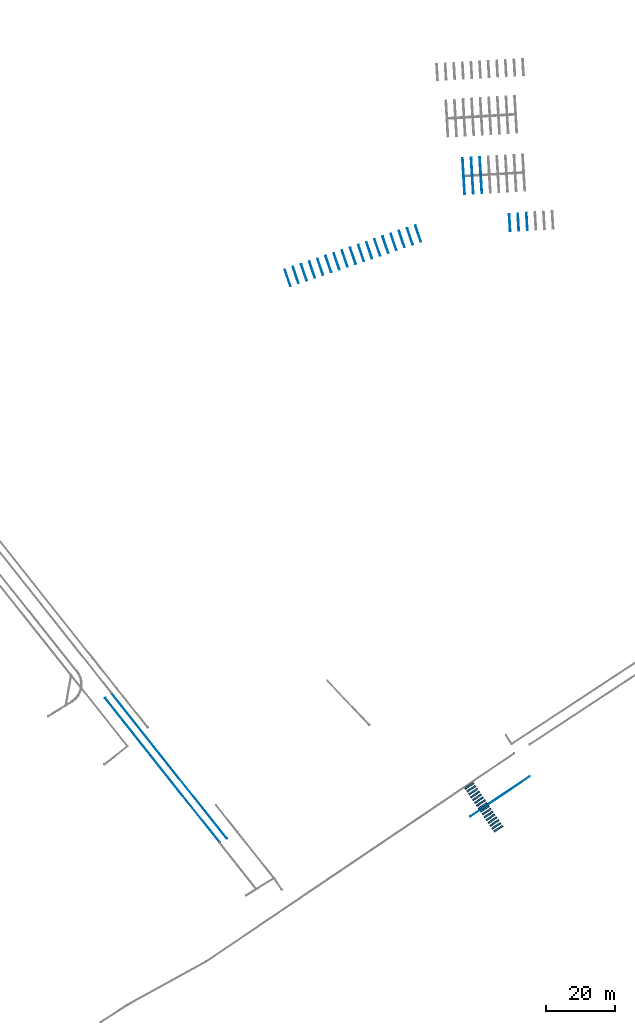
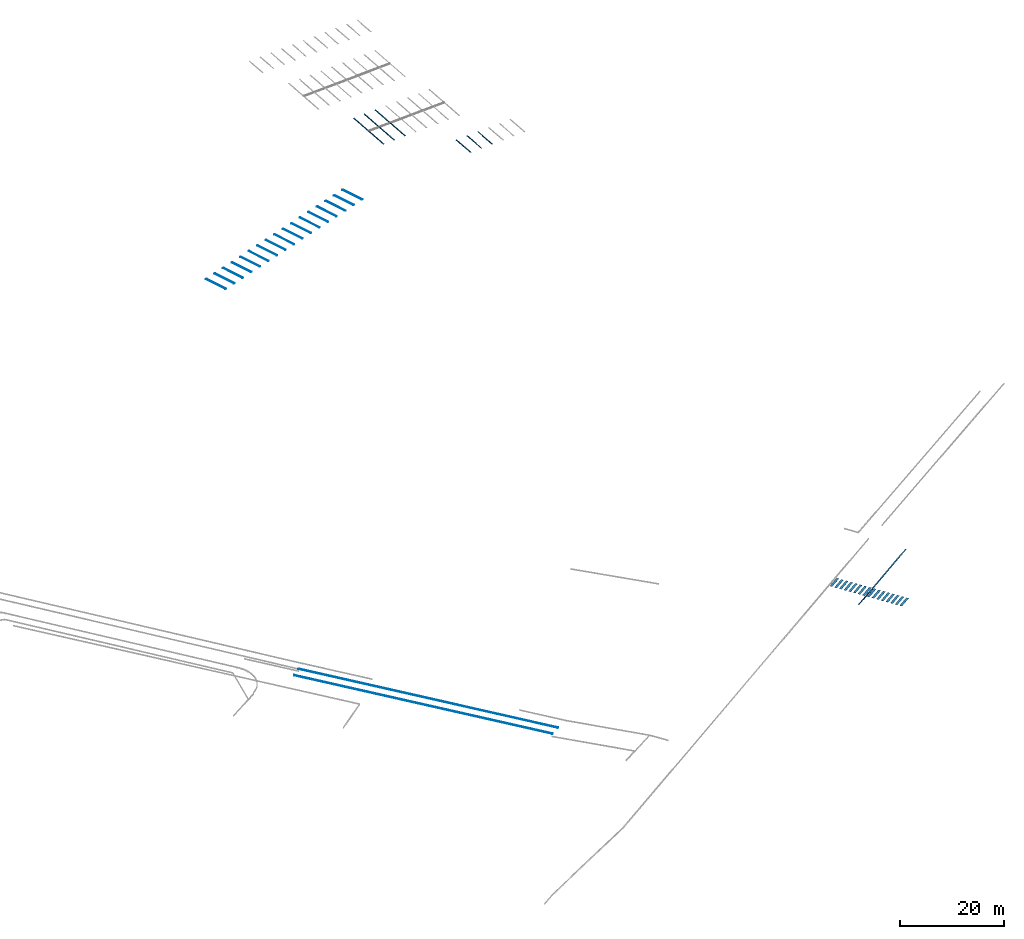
# One storey, part 11 of 24: 42 walls.
"""IFC2X3 building model written with IfcOpenShell, lengths in millimetres."""

from ifc_helpers import new_model, entity, si_unit, converted_unit, derived_unit, direction, frame, frame_2d, origin, origin_2d_with_axis, place, context, subcontext, project, spatial, rectangle, extrude, material, type_object, element, save


model = new_model("IFC2X3")

# Units and contexts
model_context = context("Model", 3, precision=0.01, world=origin(), true_north=direction((6.123031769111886e-17, 1.0)))
body_context = subcontext(model_context, "Body", "Model", "MODEL_VIEW")
ifc_project = project(units=[si_unit("LENGTHUNIT", "METRE", prefix="MILLI"), si_unit("AREAUNIT", "SQUARE_METRE"), si_unit("VOLUMEUNIT", "CUBIC_METRE"), converted_unit("PLANEANGLEUNIT", "DEGREE", entity("IfcRatioMeasure", 0.017453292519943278), si_unit("PLANEANGLEUNIT", "RADIAN"), dimensions=[0, 0, 0, 0, 0, 0, 0]), si_unit("MASSUNIT", "GRAM", prefix="KILO"), derived_unit("MASSDENSITYUNIT", [(si_unit("MASSUNIT", "GRAM", prefix="KILO"), 1), (si_unit("LENGTHUNIT", "METRE"), -3)]), derived_unit("MOMENTOFINERTIAUNIT", [(si_unit("LENGTHUNIT", "METRE"), 4)]), si_unit("TIMEUNIT", "SECOND"), si_unit("FREQUENCYUNIT", "HERTZ"), si_unit("THERMODYNAMICTEMPERATUREUNIT", "DEGREE_CELSIUS"), derived_unit("THERMALTRANSMITTANCEUNIT", [(si_unit("MASSUNIT", "GRAM", prefix="KILO"), 1), (si_unit("THERMODYNAMICTEMPERATUREUNIT", "KELVIN"), -1), (si_unit("TIMEUNIT", "SECOND"), -3)]), derived_unit("THERMALCONDUCTANCEUNIT", [(si_unit("MASSUNIT", "GRAM", prefix="KILO"), 1), (si_unit("LENGTHUNIT", "METRE"), 1), (si_unit("THERMODYNAMICTEMPERATUREUNIT", "KELVIN"), -1), (si_unit("TIMEUNIT", "SECOND"), -3)]), derived_unit("VOLUMETRICFLOWRATEUNIT", [(si_unit("LENGTHUNIT", "METRE"), 3), (si_unit("TIMEUNIT", "SECOND"), -1)]), derived_unit("MASSFLOWRATEUNIT", [(si_unit("MASSUNIT", "GRAM", prefix="KILO"), 1), (si_unit("TIMEUNIT", "SECOND"), -1)]), derived_unit("ROTATIONALFREQUENCYUNIT", [(si_unit("TIMEUNIT", "SECOND"), -1)]), si_unit("ELECTRICCURRENTUNIT", "AMPERE"), si_unit("ELECTRICVOLTAGEUNIT", "VOLT"), si_unit("POWERUNIT", "WATT"), converted_unit("FORCEUNIT", "KIP", entity("IfcRatioMeasure", 2.088543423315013e-05), si_unit("FORCEUNIT", "NEWTON"), dimensions=[1, 1, -2, 0, 0, 0, 0]), si_unit("ILLUMINANCEUNIT", "LUX"), si_unit("LUMINOUSFLUXUNIT", "LUMEN"), si_unit("LUMINOUSINTENSITYUNIT", "CANDELA"), derived_unit("USERDEFINED", [(si_unit("MASSUNIT", "GRAM", prefix="KILO"), -1), (si_unit("LENGTHUNIT", "METRE"), -2), (si_unit("TIMEUNIT", "SECOND"), 3), (si_unit("LUMINOUSFLUXUNIT", "LUMEN"), 1)]), derived_unit("USERDEFINED", [(si_unit("MASSUNIT", "GRAM", prefix="KILO"), 1), (si_unit("LENGTHUNIT", "METRE"), 3), (si_unit("TIMEUNIT", "SECOND"), -3), (si_unit("ELECTRICCURRENTUNIT", "AMPERE"), -2)]), derived_unit("USERDEFINED", [(si_unit("LENGTHUNIT", "METRE"), 2), (si_unit("TIMEUNIT", "SECOND"), -2)]), derived_unit("SOUNDPOWERUNIT", [(si_unit("MASSUNIT", "GRAM", prefix="KILO"), 1), (si_unit("LENGTHUNIT", "METRE"), 2), (si_unit("TIMEUNIT", "SECOND"), -3)]), derived_unit("SOUNDPRESSUREUNIT", [(si_unit("MASSUNIT", "GRAM", prefix="KILO"), 1), (si_unit("LENGTHUNIT", "METRE"), -1), (si_unit("TIMEUNIT", "SECOND"), -2)]), derived_unit("LINEARVELOCITYUNIT", [(si_unit("LENGTHUNIT", "METRE"), 1), (si_unit("TIMEUNIT", "SECOND"), -1)]), si_unit("PRESSUREUNIT", "PASCAL"), derived_unit("USERDEFINED", [(si_unit("LENGTHUNIT", "METRE"), -2), (si_unit("MASSUNIT", "GRAM", prefix="KILO"), 1), (si_unit("TIMEUNIT", "SECOND"), -2)]), derived_unit("LINEARFORCEUNIT", [(si_unit("MASSUNIT", "GRAM", prefix="KILO"), 1), (si_unit("LENGTHUNIT", "METRE"), 1), (si_unit("TIMEUNIT", "SECOND"), -2), (si_unit("LENGTHUNIT", "METRE"), -1)]), derived_unit("PLANARFORCEUNIT", [(si_unit("MASSUNIT", "GRAM", prefix="KILO"), 1), (si_unit("LENGTHUNIT", "METRE"), 1), (si_unit("TIMEUNIT", "SECOND"), -2), (si_unit("LENGTHUNIT", "METRE"), -2)]), derived_unit("SPECIFICHEATCAPACITYUNIT", [(si_unit("LENGTHUNIT", "METRE"), 2), (si_unit("TIMEUNIT", "SECOND"), -2), (si_unit("THERMODYNAMICTEMPERATUREUNIT", "KELVIN"), -1)]), derived_unit("VAPORPERMEABILITYUNIT", [(si_unit("TIMEUNIT", "SECOND"), 1), (si_unit("LENGTHUNIT", "METRE"), -1)]), derived_unit("DYNAMICVISCOSITYUNIT", [(si_unit("MASSUNIT", "GRAM", prefix="KILO"), 1), (si_unit("LENGTHUNIT", "METRE"), -1), (si_unit("TIMEUNIT", "SECOND"), -1)]), derived_unit("THERMALEXPANSIONCOEFFICIENTUNIT", [(si_unit("THERMODYNAMICTEMPERATUREUNIT", "KELVIN"), -1)])], contexts=[model_context])

# Site, building, storey
site_placement = place(None, frame((0.0, 0.0, 0.0), z_axis=(0.0, 0.0, 1.0), x_axis=(0.8191520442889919, 0.5735764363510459, 0.0)))
site = spatial("IfcSite", under=ifc_project, at=site_placement, Name="Default", CompositionType="ELEMENT")
building_placement = place(site_placement, origin())
building = spatial("IfcBuilding", under=site, at=building_placement, CompositionType="ELEMENT")
storey_placement = place(building_placement, frame((0.0, 0.0, -1150.0)))
storey = spatial("IfcBuildingStorey", under=building, at=storey_placement, Name="6.EG KH -1.15", CompositionType="ELEMENT", Elevation=-1150.0000000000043)

# Walls
ifc_material = material(Name="road_markirovka")
wall_type_1 = type_object("IfcWallType", Name="81", PredefinedType="NOTDEFINED", material=ifc_material)
wall_1_placement = place(storey_placement, frame((-157422.94403186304, -124666.65552484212, 650.0), z_axis=(0.0, 0.0, 1.0), x_axis=(0.0, 1.0, 0.0)))
element("IfcWall", 1, at=wall_1_placement, inside=storey, type_object=wall_type_1, material=ifc_material, Name="81 203401:81 203401", ObjectType="81 203401:81 203401", context=body_context, shape_type="SweptSolid", body=[
    extrude(rectangle(XDim=199.99999999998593, YDim=53887.487042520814, at=frame_2d((9.07363073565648e-12, 9.094947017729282e-12), x_axis=(1.0, 0.0))), frame((26901.017693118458, -1719.6915180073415, 0.0), z_axis=(0.0, 0.0, 1.0), x_axis=(0.06012053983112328, -0.9981911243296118, 0.0)), (0.0, 0.0, 1.0), 9.999999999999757),
])
wall_type_2 = type_object("IfcWallType", Name="81", PredefinedType="NOTDEFINED", material=ifc_material)
wall_2_placement = place(storey_placement, frame((-159718.7836177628, -124506.49862372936, 650.0), z_axis=(0.0, 0.0, 1.0), x_axis=(0.0, 1.0, 0.0)))
element("IfcWall", 2, at=wall_2_placement, inside=storey, type_object=wall_type_2, material=ifc_material, Name="81 203406:81 203406", ObjectType="81 203406:81 203406", context=body_context, shape_type="SweptSolid", body=[
    extrude(rectangle(XDim=200.00000000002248, YDim=53588.51209031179, at=frame_2d((1.7998047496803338e-11, 1.0913936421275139e-11), x_axis=(1.0, 0.0))), frame((26751.80062127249, -1710.7042502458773, 0.0), z_axis=(0.0, 0.0, 1.0), x_axis=(0.060120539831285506, -0.9981911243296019, 0.0)), (0.0, 0.0, 1.0), 9.999999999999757),
])
wall_type_3 = type_object("IfcWallType", Name="04", PredefinedType="NOTDEFINED", material=ifc_material)
wall_3_placement = place(storey_placement, frame((-8644.21071211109, -15088.85947063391, 350.0), z_axis=(0.0, 0.0, 1.0), x_axis=(0.0, 1.0, 0.0)))
element("IfcWall", 3, at=wall_3_placement, inside=storey, type_object=wall_type_3, material=ifc_material, Name="04 203686:04 203686", ObjectType="04 203686:04 203686", context=body_context, shape_type="SweptSolid", body=[
    extrude(rectangle(XDim=199.9999999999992, YDim=5000.0, at=frame_2d((-6.110667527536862e-13, 2.0463630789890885e-12), x_axis=(1.0, 0.0))), frame((2428.3863957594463, -794.4804455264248, 0.0), z_axis=(0.0, 0.0, 1.0), x_axis=(-0.2793850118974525, -0.9601791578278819, 0.0)), (0.0, 0.0, 1.0), 9.999999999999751),
])
wall_type_4 = type_object("IfcWallType", Name="04", PredefinedType="NOTDEFINED", material=ifc_material)
wall_4_placement = place(storey_placement, frame((-11044.658606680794, -14390.396940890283, 350.0), z_axis=(0.0, 0.0, 1.0), x_axis=(0.0, 1.0, 0.0)))
element("IfcWall", 4, at=wall_4_placement, inside=storey, type_object=wall_type_4, material=ifc_material, Name="04 203688:04 203688", ObjectType="04 203688:04 203688", context=body_context, shape_type="SweptSolid", body=[
    extrude(rectangle(XDim=199.9999999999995, YDim=5000.000000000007, at=frame_2d((1.1439738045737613e-12, -2.0463630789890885e-12), x_axis=(1.0, 0.0))), frame((2428.3863957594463, -794.4804455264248, 0.0), z_axis=(0.0, 0.0, 1.0), x_axis=(-0.27938501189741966, -0.9601791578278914, 0.0)), (0.0, 0.0, 1.0), 9.999999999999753),
])
wall_type_5 = type_object("IfcWallType", Name="04", PredefinedType="NOTDEFINED", material=ifc_material)
wall_5_placement = place(storey_placement, frame((-13445.106501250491, -13691.934411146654, 350.0), z_axis=(0.0, 0.0, 1.0), x_axis=(0.0, 1.0, 0.0)))
element("IfcWall", 5, at=wall_5_placement, inside=storey, type_object=wall_type_5, material=ifc_material, Name="04 203690:04 203690", ObjectType="04 203690:04 203690", context=body_context, shape_type="SweptSolid", body=[
    extrude(rectangle(XDim=199.99999999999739, YDim=5000.000000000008, at=frame_2d((1.9610979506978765e-12, -2.7284841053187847e-12), x_axis=(1.0, 0.0))), frame((2428.3863957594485, -794.4804455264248, 0.0), z_axis=(0.0, 0.0, 1.0), x_axis=(-0.27938501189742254, -0.9601791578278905, 0.0)), (0.0, 0.0, 1.0), 9.999999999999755),
])
wall_type_6 = type_object("IfcWallType", Name="04", PredefinedType="NOTDEFINED", material=ifc_material)
wall_6_placement = place(storey_placement, frame((-15845.554395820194, -12993.471881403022, 350.0), z_axis=(0.0, 0.0, 1.0), x_axis=(0.0, 1.0, 0.0)))
element("IfcWall", 6, at=wall_6_placement, inside=storey, type_object=wall_type_6, material=ifc_material, Name="04 203693:04 203693", ObjectType="04 203693:04 203693", context=body_context, shape_type="SweptSolid", body=[
    extrude(rectangle(XDim=199.99999999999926, YDim=5000.000000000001, at=frame_2d((2.0250467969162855e-12, 6.821210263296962e-13), x_axis=(1.0, 0.0))), frame((2428.3863957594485, -794.4804455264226, 0.0), z_axis=(0.0, 0.0, 1.0), x_axis=(-0.2793850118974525, -0.9601791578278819, 0.0)), (0.0, 0.0, 1.0), 9.999999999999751),
])
wall_type_7 = type_object("IfcWallType", Name="04", PredefinedType="NOTDEFINED", material=ifc_material)
wall_7_placement = place(storey_placement, frame((-20646.45018495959, -11596.54682191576, 350.0), z_axis=(0.0, 0.0, 1.0), x_axis=(0.0, 1.0, 0.0)))
element("IfcWall", 7, at=wall_7_placement, inside=storey, type_object=wall_type_7, material=ifc_material, Name="04 203695:04 203695", ObjectType="04 203695:04 203695", context=body_context, shape_type="SweptSolid", body=[
    extrude(rectangle(XDim=199.99999999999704, YDim=5000.0, at=frame_2d((2.1032064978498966e-12, 9.094947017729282e-13), x_axis=(1.0, 0.0))), frame((2428.3863957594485, -794.4804455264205, 0.0), z_axis=(0.0, 0.0, 1.0), x_axis=(-0.2793850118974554, -0.960179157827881, 0.0)), (0.0, 0.0, 1.0), 9.999999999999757),
])
wall_type_8 = type_object("IfcWallType", Name="04", PredefinedType="NOTDEFINED", material=ifc_material)
wall_8_placement = place(storey_placement, frame((-18246.002290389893, -12295.009351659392, 350.0), z_axis=(0.0, 0.0, 1.0), x_axis=(0.0, 1.0, 0.0)))
element("IfcWall", 8, at=wall_8_placement, inside=storey, type_object=wall_type_8, material=ifc_material, Name="04 203696:04 203696", ObjectType="04 203696:04 203696", context=body_context, shape_type="SweptSolid", body=[
    extrude(rectangle(XDim=199.99999999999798, YDim=5000.000000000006, at=frame_2d((-1.0160761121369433e-12, -2.2737367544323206e-13), x_axis=(1.0, 0.0))), frame((2428.3863957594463, -794.4804455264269, 0.0), z_axis=(0.0, 0.0, 1.0), x_axis=(-0.2793850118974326, -0.9601791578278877, 0.0)), (0.0, 0.0, 1.0), 9.999999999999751),
])
wall_type_9 = type_object("IfcWallType", Name="04", PredefinedType="NOTDEFINED", material=ifc_material)
wall_9_placement = place(storey_placement, frame((-23046.8980795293, -10898.08429217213, 350.0), z_axis=(0.0, 0.0, 1.0), x_axis=(0.0, 1.0, 0.0)))
element("IfcWall", 9, at=wall_9_placement, inside=storey, type_object=wall_type_9, material=ifc_material, Name="04 203697:04 203697", ObjectType="04 203697:04 203697", context=body_context, shape_type="SweptSolid", body=[
    extrude(rectangle(XDim=200.00000000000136, YDim=5000.000000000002, at=frame_2d((-1.3500311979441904e-13, 6.821210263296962e-13), x_axis=(1.0, 0.0))), frame((2428.3863957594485, -794.4804455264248, 0.0), z_axis=(0.0, 0.0, 1.0), x_axis=(-0.2793850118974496, -0.9601791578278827, 0.0)), (0.0, 0.0, 1.0), 9.999999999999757),
])
wall_type_10 = type_object("IfcWallType", Name="04", PredefinedType="NOTDEFINED", material=ifc_material)
wall_10_placement = place(storey_placement, frame((-27847.793868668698, -9501.159232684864, 350.0), z_axis=(0.0, 0.0, 1.0), x_axis=(0.0, 1.0, 0.0)))
element("IfcWall", 10, at=wall_10_placement, inside=storey, type_object=wall_type_10, material=ifc_material, Name="04 203701:04 203701", ObjectType="04 203701:04 203701", context=body_context, shape_type="SweptSolid", body=[
    extrude(rectangle(XDim=199.99999999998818, YDim=5000.000000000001, at=frame_2d((2.5721647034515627e-12, -9.094947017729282e-13), x_axis=(1.0, 0.0))), frame((2428.3863957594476, -794.4804455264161, 0.0), z_axis=(0.0, 0.0, 1.0), x_axis=(-0.27938501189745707, -0.9601791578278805, 0.0)), (0.0, 0.0, 1.0), 9.999999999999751),
])
wall_type_11 = type_object("IfcWallType", Name="04", PredefinedType="NOTDEFINED", material=ifc_material)
wall_11_placement = place(storey_placement, frame((-25447.345974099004, -10199.621762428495, 350.0), z_axis=(0.0, 0.0, 1.0), x_axis=(0.0, 1.0, 0.0)))
element("IfcWall", 11, at=wall_11_placement, inside=storey, type_object=wall_type_11, material=ifc_material, Name="04 203703:04 203703", ObjectType="04 203703:04 203703", context=body_context, shape_type="SweptSolid", body=[
    extrude(rectangle(XDim=200.00000000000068, YDim=4999.999999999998, at=origin_2d_with_axis()), frame((2428.3863957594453, -794.4804455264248, 0.0), z_axis=(0.0, 0.0, 1.0), x_axis=(-0.2793850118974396, -0.9601791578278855, 0.0)), (0.0, 0.0, 1.0), 9.999999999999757),
])
wall_type_12 = type_object("IfcWallType", Name="04", PredefinedType="NOTDEFINED", material=ifc_material)
wall_12_placement = place(storey_placement, frame((-30248.241763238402, -8802.696702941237, 350.0), z_axis=(0.0, 0.0, 1.0), x_axis=(0.0, 1.0, 0.0)))
element("IfcWall", 12, at=wall_12_placement, inside=storey, type_object=wall_type_12, material=ifc_material, Name="04 203705:04 203705", ObjectType="04 203705:04 203705", context=body_context, shape_type="SweptSolid", body=[
    extrude(rectangle(XDim=199.99999999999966, YDim=5000.000000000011, at=frame_2d((-3.858247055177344e-12, -2.5011104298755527e-12), x_axis=(1.0, 0.0))), frame((2428.3863957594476, -794.4804455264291, 0.0), z_axis=(0.0, 0.0, 1.0), x_axis=(-0.27938501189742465, -0.96017915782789, 0.0)), (0.0, 0.0, 1.0), 9.999999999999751),
])
wall_type_13 = type_object("IfcWallType", Name="04", PredefinedType="NOTDEFINED", material=ifc_material)
wall_13_placement = place(storey_placement, frame((-35049.1375523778, -7405.77164345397, 350.0), z_axis=(0.0, 0.0, 1.0), x_axis=(0.0, 1.0, 0.0)))
element("IfcWall", 13, at=wall_13_placement, inside=storey, type_object=wall_type_13, material=ifc_material, Name="04 203707:04 203707", ObjectType="04 203707:04 203707", context=body_context, shape_type="SweptSolid", body=[
    extrude(rectangle(XDim=199.9999999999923, YDim=5000.000000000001, at=frame_2d((4.334310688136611e-12, 6.821210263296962e-13), x_axis=(1.0, 0.0))), frame((2428.3863957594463, -794.4804455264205, 0.0), z_axis=(0.0, 0.0, 1.0), x_axis=(-0.27938501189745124, -0.9601791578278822, 0.0)), (0.0, 0.0, 1.0), 9.999999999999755),
])
wall_type_14 = type_object("IfcWallType", Name="04", PredefinedType="NOTDEFINED", material=ifc_material)
wall_14_placement = place(storey_placement, frame((-39850.033341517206, -6008.846583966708, 350.0), z_axis=(0.0, 0.0, 1.0), x_axis=(0.0, 1.0, 0.0)))
element("IfcWall", 14, at=wall_14_placement, inside=storey, type_object=wall_type_14, material=ifc_material, Name="04 203709:04 203709", ObjectType="04 203709:04 203709", context=body_context, shape_type="SweptSolid", body=[
    extrude(rectangle(XDim=199.9999999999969, YDim=4999.999999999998, at=frame_2d((2.3661073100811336e-12, -2.2737367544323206e-13), x_axis=(1.0, 0.0))), frame((2428.3863957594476, -794.4804455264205, 0.0), z_axis=(0.0, 0.0, 1.0), x_axis=(-0.2793850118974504, -0.9601791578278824, 0.0)), (0.0, 0.0, 1.0), 9.999999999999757),
])
wall_type_15 = type_object("IfcWallType", Name="04", PredefinedType="NOTDEFINED", material=ifc_material)
wall_15_placement = place(storey_placement, frame((-37449.58544694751, -6707.309113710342, 350.0), z_axis=(0.0, 0.0, 1.0), x_axis=(0.0, 1.0, 0.0)))
element("IfcWall", 15, at=wall_15_placement, inside=storey, type_object=wall_type_15, material=ifc_material, Name="04 203710:04 203710", ObjectType="04 203710:04 203710", context=body_context, shape_type="SweptSolid", body=[
    extrude(rectangle(XDim=200.00000000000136, YDim=5000.000000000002, at=frame_2d((-1.3500311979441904e-13, 6.821210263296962e-13), x_axis=(1.0, 0.0))), frame((2428.3863957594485, -794.4804455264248, 0.0), z_axis=(0.0, 0.0, 1.0), x_axis=(-0.2793850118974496, -0.9601791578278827, 0.0)), (0.0, 0.0, 1.0), 9.999999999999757),
])
wall_type_16 = type_object("IfcWallType", Name="04", PredefinedType="NOTDEFINED", material=ifc_material)
wall_16_placement = place(storey_placement, frame((-42250.48123608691, -5310.384054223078, 350.0), z_axis=(0.0, 0.0, 1.0), x_axis=(0.0, 1.0, 0.0)))
element("IfcWall", 16, at=wall_16_placement, inside=storey, type_object=wall_type_16, material=ifc_material, Name="04 203713:04 203713", ObjectType="04 203713:04 203713", context=body_context, shape_type="SweptSolid", body=[
    extrude(rectangle(XDim=199.99999999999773, YDim=4999.999999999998, at=frame_2d((4.192202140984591e-12, 1.3642420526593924e-12), x_axis=(1.0, 0.0))), frame((2428.386395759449, -794.4804455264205, 0.0), z_axis=(0.0, 0.0, 1.0), x_axis=(-0.27938501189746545, -0.9601791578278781, 0.0)), (0.0, 0.0, 1.0), 9.999999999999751),
])
wall_type_17 = type_object("IfcWallType", Name="04", PredefinedType="NOTDEFINED", material=ifc_material)
wall_17_placement = place(storey_placement, frame((-32648.6896578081, -8104.234173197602, 350.0), z_axis=(0.0, 0.0, 1.0), x_axis=(0.0, 1.0, 0.0)))
element("IfcWall", 17, at=wall_17_placement, inside=storey, type_object=wall_type_17, material=ifc_material, Name="04 203714:04 203714", ObjectType="04 203714:04 203714", context=body_context, shape_type="SweptSolid", body=[
    extrude(rectangle(XDim=200.00000000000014, YDim=5000.000000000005, at=frame_2d((-3.787192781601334e-12, -2.9558577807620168e-12), x_axis=(1.0, 0.0))), frame((2428.3863957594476, -794.4804455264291, 0.0), z_axis=(0.0, 0.0, 1.0), x_axis=(-0.2793850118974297, -0.9601791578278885, 0.0)), (0.0, 0.0, 1.0), 9.999999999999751),
])
wall_type_18 = type_object("IfcWallType", Name="04", PredefinedType="NOTDEFINED", material=ifc_material)
wall_18_placement = place(storey_placement, frame((-44650.929130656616, -4611.921524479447, 350.0), z_axis=(0.0, 0.0, 1.0), x_axis=(0.0, 1.0, 0.0)))
element("IfcWall", 18, at=wall_18_placement, inside=storey, type_object=wall_type_18, material=ifc_material, Name="04 203716:04 203716", ObjectType="04 203716:04 203716", context=body_context, shape_type="SweptSolid", body=[
    extrude(rectangle(XDim=199.9999999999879, YDim=5000.000000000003, at=frame_2d((1.3500311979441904e-13, -4.547473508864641e-13), x_axis=(1.0, 0.0))), frame((2428.3863957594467, -794.4804455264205, 0.0), z_axis=(0.0, 0.0, 1.0), x_axis=(-0.2793850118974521, -0.960179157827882, 0.0)), (0.0, 0.0, 1.0), 9.999999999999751),
])
wall_type_19 = type_object("IfcWallType", Name="04", PredefinedType="NOTDEFINED", material=ifc_material)
wall_19_placement = place(storey_placement, frame((-47051.37702522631, -3913.458994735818, 350.0), z_axis=(0.0, 0.0, 1.0), x_axis=(0.0, 1.0, 0.0)))
element("IfcWall", 19, at=wall_19_placement, inside=storey, type_object=wall_type_19, material=ifc_material, Name="04 203719:04 203719", ObjectType="04 203719:04 203719", context=body_context, shape_type="SweptSolid", body=[
    extrude(rectangle(XDim=199.9999999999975, YDim=5000.000000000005, at=frame_2d((4.192202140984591e-12, 6.821210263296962e-13), x_axis=(1.0, 0.0))), frame((2428.38639575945, -794.4804455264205, 0.0), z_axis=(0.0, 0.0, 1.0), x_axis=(-0.2793850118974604, -0.9601791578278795, 0.0)), (0.0, 0.0, 1.0), 9.999999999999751),
])
wall_type_20 = type_object("IfcWallType", Name="06", PredefinedType="NOTDEFINED", material=ifc_material)
wall_20_placement = place(storey_placement, frame((18639.367433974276, -30098.25840925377, 550.0), z_axis=(0.0, 0.0, 1.0), x_axis=(0.0, 1.0, 0.0)))
element("IfcWall", 20, at=wall_20_placement, inside=storey, type_object=wall_type_20, material=ifc_material, Name="06:06", ObjectType="06:06", context=body_context, shape_type="SweptSolid", body=[
    extrude(rectangle(XDim=200.00000000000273, YDim=4999.999999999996, at=frame_2d((1.0800249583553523e-12, -1.5916157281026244e-12), x_axis=(1.0, 0.0))), frame((2182.58050410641, -1393.6700948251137, 0.0), z_axis=(0.0, 0.0, 1.0), x_axis=(0.5233841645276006, 0.8520968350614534, 0.0)), (0.0, 0.0, 1.0), 9.999999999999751),
])
wall_type_21 = type_object("IfcWallType", Name="05", PredefinedType="NOTDEFINED", material=ifc_material)
wall_21_placement = place(storey_placement, frame((16509.125346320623, -28789.797997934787, 550.0), z_axis=(0.0, 0.0, 1.0), x_axis=(0.0, 1.0, 0.0)))
element("IfcWall", 21, at=wall_21_placement, inside=storey, type_object=wall_type_21, material=ifc_material, Name="05 203726:05 203726", ObjectType="05 203726:05 203726", context=body_context, shape_type="SweptSolid", body=[
    extrude(rectangle(XDim=199.99999999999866, YDim=4999.999999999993, at=origin_2d_with_axis()), frame((2182.58050410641, -1393.6700948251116, 0.0), z_axis=(0.0, 0.0, 1.0), x_axis=(0.5233841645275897, 0.85209683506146, 0.0)), (0.0, 0.0, 1.0), 9.999999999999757),
])
wall_type_22 = type_object("IfcWallType", Name="04", PredefinedType="NOTDEFINED", material=ifc_material)
wall_22_placement = place(storey_placement, frame((14378.883258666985, -27481.33758661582, 550.0), z_axis=(0.0, 0.0, 1.0), x_axis=(0.0, 1.0, 0.0)))
element("IfcWall", 22, at=wall_22_placement, inside=storey, type_object=wall_type_22, material=ifc_material, Name="04 203735:04 203735", ObjectType="04 203735:04 203735", context=body_context, shape_type="SweptSolid", body=[
    extrude(rectangle(XDim=200.00000000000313, YDim=4999.999999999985, at=frame_2d((-2.3021584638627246e-12, 3.637978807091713e-12), x_axis=(1.0, 0.0))), frame((2182.58050410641, -1393.6700948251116, 0.0), z_axis=(0.0, 0.0, 1.0), x_axis=(0.5233841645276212, 0.8520968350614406, 0.0)), (0.0, 0.0, 1.0), 9.999999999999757),
])
wall_type_23 = type_object("IfcWallType", Name="04", PredefinedType="NOTDEFINED", material=ifc_material)
wall_23_placement = place(storey_placement, frame((13962.114785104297, -13729.226867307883, 600.0), z_axis=(0.0, 0.0, 1.0), x_axis=(0.0, 1.0, 0.0)))
element("IfcWall", 23, at=wall_23_placement, inside=storey, type_object=wall_type_23, material=ifc_material, Name="04 203768:04 203768", ObjectType="04 203768:04 203768", context=body_context, shape_type="SweptSolid", body=[
    extrude(rectangle(XDim=199.9999999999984, YDim=10500.000000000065, at=frame_2d((1.0800249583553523e-12, 1.8189894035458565e-12), x_axis=(1.0, 0.0))), frame((4525.846800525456, -2832.976547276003, 0.0), z_axis=(0.0, 0.0, 1.0), x_axis=(0.5233841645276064, 0.8520968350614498, 0.0)), (0.0, 0.0, 1.0), 9.999999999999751),
])
wall_type_24 = type_object("IfcWallType", Name="04", PredefinedType="NOTDEFINED", material=ifc_material)
wall_24_placement = place(storey_placement, frame((11831.872697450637, -12420.766455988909, 600.0), z_axis=(0.0, 0.0, 1.0), x_axis=(0.0, 1.0, 0.0)))
element("IfcWall", 24, at=wall_24_placement, inside=storey, type_object=wall_type_24, material=ifc_material, Name="04 203770:04 203770", ObjectType="04 203770:04 203770", context=body_context, shape_type="SweptSolid", body=[
    extrude(rectangle(XDim=200.00000000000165, YDim=10500.00000000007, at=frame_2d((-1.7621459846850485e-12, -9.094947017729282e-13), x_axis=(1.0, 0.0))), frame((4525.8468005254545, -2832.976547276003, 0.0), z_axis=(0.0, 0.0, 1.0), x_axis=(0.5233841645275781, 0.852096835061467, 0.0)), (0.0, 0.0, 1.0), 9.999999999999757),
])
wall_type_25 = type_object("IfcWallType", Name="04", PredefinedType="NOTDEFINED", material=ifc_material)
wall_25_placement = place(storey_placement, frame((9701.630609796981, -11112.306044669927, 600.0), z_axis=(0.0, 0.0, 1.0), x_axis=(0.0, 1.0, 0.0)))
element("IfcWall", 25, at=wall_25_placement, inside=storey, type_object=wall_type_25, material=ifc_material, Name="04 203774:04 203774", ObjectType="04 203774:04 203774", context=body_context, shape_type="SweptSolid", body=[
    extrude(rectangle(XDim=200.00000000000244, YDim=10500.00000000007, at=frame_2d((6.750155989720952e-13, -1.3642420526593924e-12), x_axis=(1.0, 0.0))), frame((4525.8468005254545, -2832.9765472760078, 0.0), z_axis=(0.0, 0.0, 1.0), x_axis=(0.5233841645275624, 0.8520968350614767, 0.0)), (0.0, 0.0, 1.0), 9.999999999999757),
])
wall_type_26 = type_object("IfcWallType", Name="81", PredefinedType="NOTDEFINED", material=ifc_material)
wall_26_placement = place(storey_placement, frame((-92520.78067355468, -160408.69061844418, 1000.0)))
element("IfcWall", 26, at=wall_26_placement, inside=storey, type_object=wall_type_26, material=ifc_material, Name="81 206551:81 206551", ObjectType="81 206551:81 206551", context=body_context, shape_type="SweptSolid", body=[
    extrude(rectangle(XDim=200.00000000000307, YDim=20829.355492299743, at=frame_2d((1.5631940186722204e-13, -8.185452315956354e-12), x_axis=(1.0, 0.0))), frame((10414.88562389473, 275.2710558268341, 0.0), z_axis=(0.0, 0.0, 1.0), x_axis=(0.01683059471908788, 0.9998583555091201, 0.0)), (0.0, 0.0, 1.0), 9.99999999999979),
])
wall_type_27 = type_object("IfcWallType", Name="81", PredefinedType="NOTDEFINED", material=ifc_material)
wall_27_placement = place(storey_placement, frame((-89413.36802585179, -167800.76748082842, 1000.0)))
element("IfcWall", 27, at=wall_27_placement, inside=storey, type_object=wall_type_27, material=ifc_material, Name="81 207331:81 207331", ObjectType="81 207331:81 207331", context=body_context, shape_type="SweptSolid", body=[
    extrude(rectangle(XDim=499.99999999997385, YDim=3000.0000000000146, at=frame_2d((3.4646063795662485e-11, 5.684341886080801e-13), x_axis=(1.0, 0.0))), frame((1503.9951819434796, 275.21048095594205, 0.0), z_axis=(0.0, 0.0, 1.0), x_axis=(0.01683059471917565, 0.9998583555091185, 0.0)), (0.0, 0.0, 1.0), 9.99999999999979),
])
wall_type_28 = type_object("IfcWallType", Name="81", PredefinedType="NOTDEFINED", material=ifc_material)
wall_28_placement = place(storey_placement, frame((-89379.70683641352, -165801.05076981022, 1000.0)))
element("IfcWall", 28, at=wall_28_placement, inside=storey, type_object=wall_type_28, material=ifc_material, Name="81 207334:81 207334", ObjectType="81 207334:81 207334", context=body_context, shape_type="SweptSolid", body=[
    extrude(rectangle(XDim=500.0000000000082, YDim=2999.999999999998, at=origin_2d_with_axis()), frame((1503.9951819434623, 275.2104809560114, 0.0), z_axis=(0.0, 0.0, 1.0), x_axis=(0.016830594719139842, 0.9998583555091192, 0.0)), (0.0, 0.0, 1.0), 9.99999999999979),
])
wall_type_29 = type_object("IfcWallType", Name="81", PredefinedType="NOTDEFINED", material=ifc_material)
wall_29_placement = place(storey_placement, frame((-89396.53743113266, -166800.90912531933, 1000.0)))
element("IfcWall", 29, at=wall_29_placement, inside=storey, type_object=wall_type_29, material=ifc_material, Name="81 207336:81 207336", ObjectType="81 207336:81 207336", context=body_context, shape_type="SweptSolid", body=[
    extrude(rectangle(XDim=500.0000000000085, YDim=3000.0000000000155, at=frame_2d((1.7323031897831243e-11, 3.410605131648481e-13), x_axis=(1.0, 0.0))), frame((1503.9951819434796, 275.2104809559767, 0.0), z_axis=(0.0, 0.0, 1.0), x_axis=(0.016830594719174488, 0.9998583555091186, 0.0)), (0.0, 0.0, 1.0), 9.999999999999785),
])
wall_type_30 = type_object("IfcWallType", Name="81", PredefinedType="NOTDEFINED", material=ifc_material)
wall_30_placement = place(storey_placement, frame((-89362.87624169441, -164801.1924143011, 1000.0)))
element("IfcWall", 30, at=wall_30_placement, inside=storey, type_object=wall_type_30, material=ifc_material, Name="81 207338:81 207338", ObjectType="81 207338:81 207338", context=body_context, shape_type="SweptSolid", body=[
    extrude(rectangle(XDim=499.9999999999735, YDim=3000.0000000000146, at=frame_2d((1.716671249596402e-11, 8.981260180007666e-12), x_axis=(1.0, 0.0))), frame((1503.9951819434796, 275.2104809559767, 0.0), z_axis=(0.0, 0.0, 1.0), x_axis=(0.01683059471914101, 0.9998583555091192, 0.0)), (0.0, 0.0, 1.0), 9.999999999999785),
])
wall_type_31 = type_object("IfcWallType", Name="81", PredefinedType="NOTDEFINED", material=ifc_material)
wall_31_placement = place(storey_placement, frame((-89329.21505225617, -162801.47570328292, 1000.0)))
element("IfcWall", 31, at=wall_31_placement, inside=storey, type_object=wall_type_31, material=ifc_material, Name="81 207340:81 207340", ObjectType="81 207340:81 207340", context=body_context, shape_type="SweptSolid", body=[
    extrude(rectangle(XDim=499.99999999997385, YDim=3000.000000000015, at=frame_2d((1.7323031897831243e-11, 2.2737367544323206e-13), x_axis=(1.0, 0.0))), frame((1503.9951819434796, 275.2104809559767, 0.0), z_axis=(0.0, 0.0, 1.0), x_axis=(0.01683059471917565, 0.9998583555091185, 0.0)), (0.0, 0.0, 1.0), 9.99999999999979),
])
wall_type_32 = type_object("IfcWallType", Name="81", PredefinedType="NOTDEFINED", material=ifc_material)
wall_32_placement = place(storey_placement, frame((-89346.04564697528, -163801.334058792, 1000.0)))
element("IfcWall", 32, at=wall_32_placement, inside=storey, type_object=wall_type_32, material=ifc_material, Name="81 207342:81 207342", ObjectType="81 207342:81 207342", context=body_context, shape_type="SweptSolid", body=[
    extrude(rectangle(XDim=499.9999999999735, YDim=3000.000000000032, at=frame_2d((3.480238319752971e-11, -7.958078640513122e-12), x_axis=(1.0, 0.0))), frame((1503.9951819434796, 275.21048095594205, 0.0), z_axis=(0.0, 0.0, 1.0), x_axis=(0.01683059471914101, 0.9998583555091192, 0.0)), (0.0, 0.0, 1.0), 9.999999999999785),
])
wall_type_33 = type_object("IfcWallType", Name="81", PredefinedType="NOTDEFINED", material=ifc_material)
wall_33_placement = place(storey_placement, frame((-89312.38445753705, -161801.6173477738, 1000.0)))
element("IfcWall", 33, at=wall_33_placement, inside=storey, type_object=wall_type_33, material=ifc_material, Name="81 207345:81 207345", ObjectType="81 207345:81 207345", context=body_context, shape_type="SweptSolid", body=[
    extrude(rectangle(XDim=500.00000000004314, YDim=3000.000000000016, at=frame_2d((-1.7323031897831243e-11, -4.547473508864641e-13), x_axis=(1.0, 0.0))), frame((1503.9951819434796, 275.2104809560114, 0.0), z_axis=(0.0, 0.0, 1.0), x_axis=(0.016830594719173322, 0.9998583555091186, 0.0)), (0.0, 0.0, 1.0), 9.99999999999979),
])
wall_type_34 = type_object("IfcWallType", Name="81", PredefinedType="NOTDEFINED", material=ifc_material)
wall_34_placement = place(storey_placement, frame((-89295.5538628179, -160801.7589922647, 1000.0)))
element("IfcWall", 34, at=wall_34_placement, inside=storey, type_object=wall_type_34, material=ifc_material, Name="81 207346:81 207346", ObjectType="81 207346:81 207346", context=body_context, shape_type="SweptSolid", body=[
    extrude(rectangle(XDim=499.9999999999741, YDim=2999.999999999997, at=frame_2d((1.7323031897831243e-11, 3.410605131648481e-13), x_axis=(1.0, 0.0))), frame((1503.9951819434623, 275.2104809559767, 0.0), z_axis=(0.0, 0.0, 1.0), x_axis=(0.016830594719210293, 0.999858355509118, 0.0)), (0.0, 0.0, 1.0), 9.99999999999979),
])
wall_type_35 = type_object("IfcWallType", Name="81", PredefinedType="NOTDEFINED", material=ifc_material)
wall_35_placement = place(storey_placement, frame((-89278.72326809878, -159801.90063675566, 1000.0)))
element("IfcWall", 35, at=wall_35_placement, inside=storey, type_object=wall_type_35, material=ifc_material, Name="81 207347:81 207347", ObjectType="81 207347:81 207347", context=body_context, shape_type="SweptSolid", body=[
    extrude(rectangle(XDim=499.9999999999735, YDim=3000.0000000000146, at=frame_2d((1.7479351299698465e-11, -8.412825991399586e-12), x_axis=(1.0, 0.0))), frame((1503.9951819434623, 275.2104809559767, 0.0), z_axis=(0.0, 0.0, 1.0), x_axis=(0.01683059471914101, 0.9998583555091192, 0.0)), (0.0, 0.0, 1.0), 9.999999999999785),
])
wall_type_36 = type_object("IfcWallType", Name="81", PredefinedType="NOTDEFINED", material=ifc_material)
wall_36_placement = place(storey_placement, frame((-89228.23148394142, -156802.3255702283, 1000.0)))
element("IfcWall", 36, at=wall_36_placement, inside=storey, type_object=wall_type_36, material=ifc_material, Name="81 207350:81 207350", ObjectType="81 207350:81 207350", context=body_context, shape_type="SweptSolid", body=[
    extrude(rectangle(XDim=500.0000000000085, YDim=3000.0000000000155, at=origin_2d_with_axis()), frame((1503.9951819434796, 275.2104809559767, 0.0), z_axis=(0.0, 0.0, 1.0), x_axis=(0.016830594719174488, 0.9998583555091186, 0.0)), (0.0, 0.0, 1.0), 9.999999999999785),
])
wall_type_37 = type_object("IfcWallType", Name="81", PredefinedType="NOTDEFINED", material=ifc_material)
wall_37_placement = place(storey_placement, frame((-89261.89267337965, -158802.0422812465, 1000.0)))
element("IfcWall", 37, at=wall_37_placement, inside=storey, type_object=wall_type_37, material=ifc_material, Name="81 207351:81 207351", ObjectType="81 207351:81 207351", context=body_context, shape_type="SweptSolid", body=[
    extrude(rectangle(XDim=499.9999999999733, YDim=3000.000000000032, at=frame_2d((1.7323031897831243e-11, 4.547473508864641e-13), x_axis=(1.0, 0.0))), frame((1503.9951819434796, 275.2104809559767, 0.0), z_axis=(0.0, 0.0, 1.0), x_axis=(0.01683059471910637, 0.9998583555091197, 0.0)), (0.0, 0.0, 1.0), 9.99999999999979),
])
wall_type_38 = type_object("IfcWallType", Name="81", PredefinedType="NOTDEFINED", material=ifc_material)
wall_38_placement = place(storey_placement, frame((-89245.06207866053, -157802.18392573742, 1000.0)))
element("IfcWall", 38, at=wall_38_placement, inside=storey, type_object=wall_type_38, material=ifc_material, Name="81 207352:81 207352", ObjectType="81 207352:81 207352", context=body_context, shape_type="SweptSolid", body=[
    extrude(rectangle(XDim=500.0000000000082, YDim=3000.0000000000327, at=frame_2d((-1.7195134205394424e-11, -9.094947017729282e-12), x_axis=(1.0, 0.0))), frame((1503.9951819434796, 275.2104809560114, 0.0), z_axis=(0.0, 0.0, 1.0), x_axis=(0.016830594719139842, 0.9998583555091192, 0.0)), (0.0, 0.0, 1.0), 9.99999999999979),
])
wall_type_39 = type_object("IfcWallType", Name="81", PredefinedType="NOTDEFINED", material=ifc_material)
wall_39_placement = place(storey_placement, frame((-89211.40088922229, -155802.46721471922, 1000.0)))
element("IfcWall", 39, at=wall_39_placement, inside=storey, type_object=wall_type_39, material=ifc_material, Name="81 207356:81 207356", ObjectType="81 207356:81 207356", context=body_context, shape_type="SweptSolid", body=[
    extrude(rectangle(XDim=500.0000000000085, YDim=3000.0000000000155, at=frame_2d((-8.668621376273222e-12, -1.1368683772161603e-13), x_axis=(1.0, 0.0))), frame((1503.9951819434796, 275.2104809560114, 0.0), z_axis=(0.0, 0.0, 1.0), x_axis=(0.016830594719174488, 0.9998583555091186, 0.0)), (0.0, 0.0, 1.0), 9.999999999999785),
])
wall_type_40 = type_object("IfcWallType", Name="81", PredefinedType="NOTDEFINED", material=ifc_material)
wall_40_placement = place(storey_placement, frame((-89194.57029450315, -154802.6088592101, 1000.0)))
element("IfcWall", 40, at=wall_40_placement, inside=storey, type_object=wall_type_40, material=ifc_material, Name="81 207357:81 207357", ObjectType="81 207357:81 207357", context=body_context, shape_type="SweptSolid", body=[
    extrude(rectangle(XDim=499.9999999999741, YDim=2999.999999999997, at=frame_2d((2.5693225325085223e-11, 1.77351466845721e-11), x_axis=(1.0, 0.0))), frame((1503.9951819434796, 275.2104809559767, 0.0), z_axis=(0.0, 0.0, 1.0), x_axis=(0.016830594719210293, 0.999858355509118, 0.0)), (0.0, 0.0, 1.0), 9.99999999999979),
])
wall_type_41 = type_object("IfcWallType", Name="81", PredefinedType="NOTDEFINED", material=ifc_material)
wall_41_placement = place(storey_placement, frame((-89160.90910506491, -152802.89214819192, 1000.0)))
element("IfcWall", 41, at=wall_41_placement, inside=storey, type_object=wall_type_41, material=ifc_material, Name="81 207359:81 207359", ObjectType="81 207359:81 207359", context=body_context, shape_type="SweptSolid", body=[
    extrude(rectangle(XDim=499.99999999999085, YDim=3000.0000000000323, at=frame_2d((-8.498091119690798e-12, -8.86757334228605e-12), x_axis=(1.0, 0.0))), frame((1503.9951819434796, 275.21048095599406, 0.0), z_axis=(0.0, 0.0, 1.0), x_axis=(0.016830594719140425, 0.9998583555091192, 0.0)), (0.0, 0.0, 1.0), 9.99999999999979),
])
wall_type_42 = type_object("IfcWallType", Name="81", PredefinedType="NOTDEFINED", material=ifc_material)
wall_42_placement = place(storey_placement, frame((-89177.73969978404, -153802.750503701, 1000.0)))
element("IfcWall", 42, at=wall_42_placement, inside=storey, type_object=wall_type_42, material=ifc_material, Name="81 207362:81 207362", ObjectType="81 207362:81 207362", context=body_context, shape_type="SweptSolid", body=[
    extrude(rectangle(XDim=499.99999999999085, YDim=3000.0000000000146, at=frame_2d((-1.5631940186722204e-13, 8.753886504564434e-12), x_axis=(1.0, 0.0))), frame((1503.9951819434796, 275.21048095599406, 0.0), z_axis=(0.0, 0.0, 1.0), x_axis=(0.016830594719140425, 0.9998583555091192, 0.0)), (0.0, 0.0, 1.0), 9.99999999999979),
])

save(model, "model.ifc")
